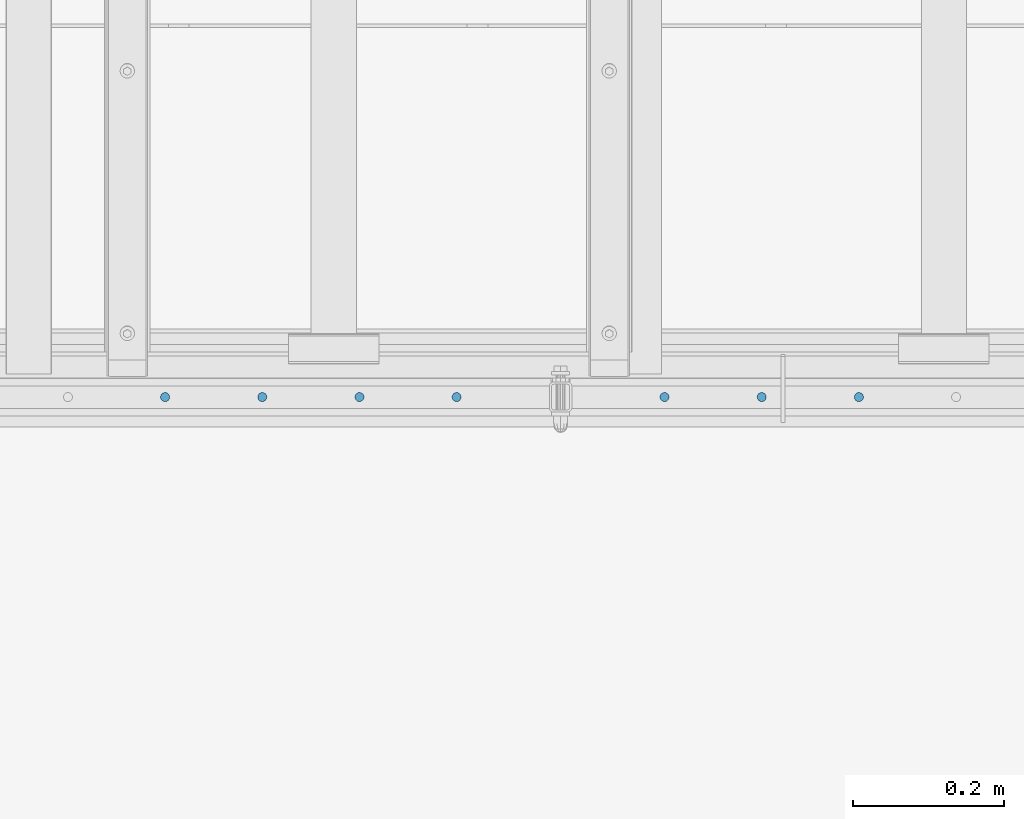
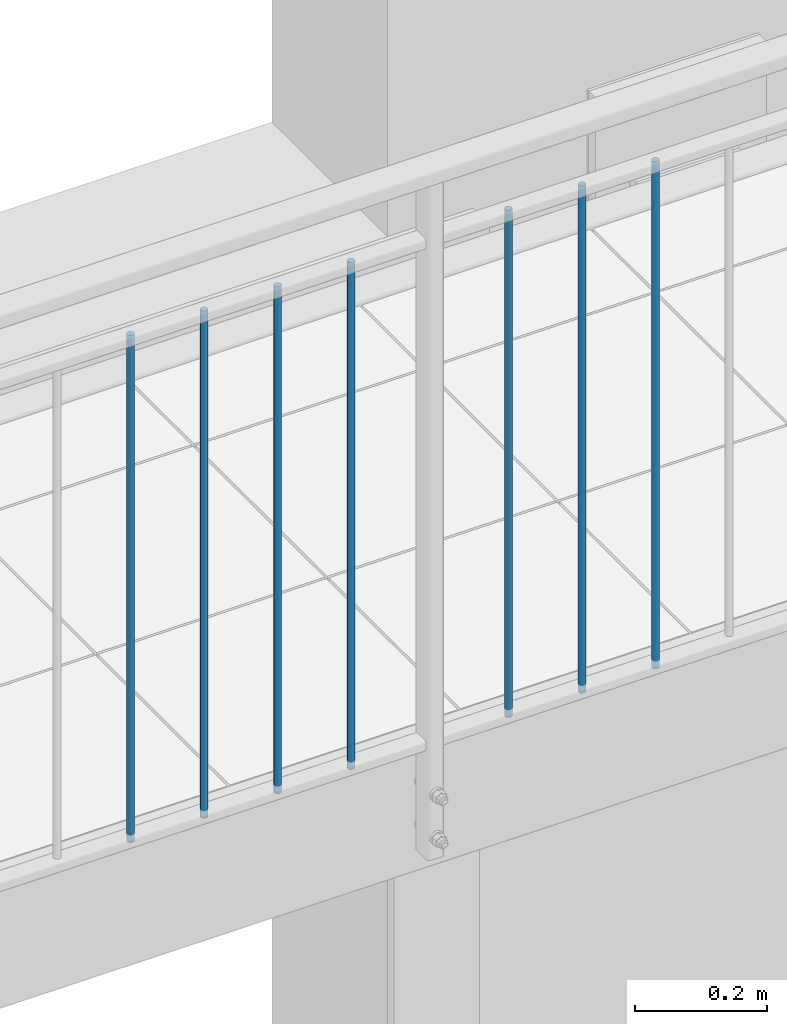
# One storey, part 25 of 162: 7 columns.
"""IFC2X3 building model written with IfcOpenShell, lengths in millimetres."""

import ifcopenshell
import ifcopenshell.guid

model = None  # the IFC model being written
_history = None  # IfcOwnerHistory: only IFC2X3 demands one
_inside = {}  # id of a spatial element -> (the spatial element, [elements in it])
_under = {}  # id of a project, library or spatial element -> (it, [spatial elements below it])
_declared = {}  # id of a project -> (the project, [libraries it declares])
_typed = {}  # id of a type object -> (the type object, [elements of that type])
_made_of = {}  # id of a material, layer set ... -> (it, [elements and type objects made of it])


def new_model(schema):
    """Start an empty IFC model of exactly this schema.

    Asked for "IFC4X3", IfcOpenShell would pick the latest addendum, in which some entities
    have other attributes; the version numbers below select the first issue.
    IFC2X3 requires an IfcOwnerHistory on every rooted entity: one is made here for all.
    """
    global model, _history
    if schema == "IFC4X3":
        model = ifcopenshell.file(schema_version=(4, 3, 0, 0))
    else:
        model = ifcopenshell.file(schema=schema)
    _inside.clear()
    _under.clear()
    _declared.clear()
    _typed.clear()
    _made_of.clear()
    _history = None
    if model.schema == "IFC2X3":
        org = make("IfcOrganization", Name="unknown")
        user = make(
            "IfcPersonAndOrganization",
            ThePerson=make("IfcPerson", FamilyName="unknown"),
            TheOrganization=org,
        )
        app = make(
            "IfcApplication",
            ApplicationDeveloper=org,
            Version="unknown",
            ApplicationFullName="unknown",
            ApplicationIdentifier="unknown",
        )
        _history = make(
            "IfcOwnerHistory",
            OwningUser=user,
            OwningApplication=app,
            ChangeAction="ADDED",
            CreationDate=0,
        )
    return model


def make(cls, **values):
    """One entity of the class cls with the attributes given. An attribute that is None is left unset."""
    return model.create_entity(
        cls, **{name: value for name, value in values.items() if value is not None}
    )


def entity(cls, *values):
    """Any entity or typed value of the class cls, its attributes in the order of the schema. None: left unset."""
    e = model.create_entity(cls)
    for i, value in enumerate(values):
        if value is not None:
            e[i] = value
    return e


def rooted(cls, **values):
    """An entity with a GlobalId (a new one), such as an element, a storey or a relation."""
    return make(cls, GlobalId=ifcopenshell.guid.new(), OwnerHistory=_history, **values)


def si_unit(unit_type, name, prefix=None):
    """IfcSIUnit, for example si_unit("LENGTHUNIT", "METRE", prefix="MILLI")."""
    return make("IfcSIUnit", UnitType=unit_type, Prefix=prefix, Name=name)


def converted_unit(unit_type, name, factor, base, dimensions=None, offset=None):
    """IfcConversionBasedUnit, such as the inch: factor (a typed value) times the base unit."""
    return make(
        "IfcConversionBasedUnit"
        if offset is None
        else "IfcConversionBasedUnitWithOffset",
        ConversionOffset=offset,
        Dimensions=None
        if dimensions is None
        else entity("IfcDimensionalExponents", *dimensions),
        UnitType=unit_type,
        Name=name,
        ConversionFactor=make(
            "IfcMeasureWithUnit", ValueComponent=factor, UnitComponent=base
        ),
    )


def assignment(units):
    """IfcUnitAssignment: the units of a project."""
    return None if units is None else make("IfcUnitAssignment", Units=units)


def point(xyz):
    """IfcCartesianPoint."""
    return None if xyz is None else make("IfcCartesianPoint", Coordinates=xyz)


def direction(xyz):
    """IfcDirection."""
    return None if xyz is None else make("IfcDirection", DirectionRatios=xyz)


def frame(location, z_axis=None, x_axis=None):
    """IfcAxis2Placement3D, a coordinate frame: its origin and axes. An axis left out is left unset."""
    return make(
        "IfcAxis2Placement3D",
        Location=point(location),
        Axis=direction(z_axis),
        RefDirection=direction(x_axis),
    )


def frame_2d(location, x_axis=None):
    """IfcAxis2Placement2D, a coordinate frame in the plane: its origin and x axis."""
    return make(
        "IfcAxis2Placement2D", Location=point(location), RefDirection=direction(x_axis)
    )


def origin():
    """The frame at (0, 0, 0) with its axes left unset."""
    return frame((0.0, 0.0, 0.0))


def origin_with_axes():
    """The frame at (0, 0, 0) with the z axis (0, 0, 1) and the x axis (1, 0, 0) written out."""
    return frame((0.0, 0.0, 0.0), z_axis=(0.0, 0.0, 1.0), x_axis=(1.0, 0.0, 0.0))


def origin_2d():
    """The frame at (0, 0) in the plane with its x axis left unset."""
    return frame_2d((0.0, 0.0))


def place(relative_to, where):
    """IfcLocalPlacement: puts the frame where relative to a parent placement (None: the world)."""
    return make(
        "IfcLocalPlacement", PlacementRelTo=relative_to, RelativePlacement=where
    )


def context(
    kind, dimensions, precision=None, world=None, true_north=None, identifier=None
):
    """IfcGeometricRepresentationContext, for example the 3D "Model" context."""
    return make(
        "IfcGeometricRepresentationContext",
        ContextIdentifier=identifier,
        ContextType=kind,
        CoordinateSpaceDimension=dimensions,
        Precision=precision,
        WorldCoordinateSystem=world,
        TrueNorth=true_north,
    )


def project(units=None, contexts=None):
    """IfcProject with its units and contexts."""
    return rooted(
        "IfcProject",
        Name="project",
        RepresentationContexts=contexts,
        UnitsInContext=assignment(units),
    )


def spatial(cls, under=None, at=None, **own):
    """A site, building, storey or space (cls), placed at a placement, below another one or the project."""
    s = rooted(cls, ObjectPlacement=at, **own)
    if under is not None:
        _under.setdefault(under.id(), (under, []))[1].append(s)
    return s


def profile(cls, at=None, kind="AREA", **sizes):
    """A parametric profile (cls). Its sizes go by their IFC names, for example OverallWidth=200.0."""
    return make(cls, ProfileType=kind, Position=at, **sizes)


def circle(**sizes):
    """IfcCircleProfileDef."""
    return profile("IfcCircleProfileDef", **sizes)


def extrude(swept, where, along, depth):
    """IfcExtrudedAreaSolid: the profile swept, set in the frame where, extruded along a direction by depth."""
    return make(
        "IfcExtrudedAreaSolid",
        SweptArea=swept,
        Position=where,
        ExtrudedDirection=direction(along),
        Depth=depth,
    )


def shape(context_of_items, identifier, shape_type, items):
    """IfcShapeRepresentation: the items that make up one representation, for example the "Body"."""
    return make(
        "IfcShapeRepresentation",
        ContextOfItems=context_of_items,
        RepresentationIdentifier=identifier,
        RepresentationType=shape_type,
        Items=items,
    )


def material(Name=None, Category=None):
    """IfcMaterial."""
    return make("IfcMaterial", Name=Name, Category=Category)


def made_of(thing, what):
    """Note that an element or type object is made of a material, layer set ...; save() writes the relation."""
    if what is not None:
        _made_of.setdefault(what.id(), (what, []))[1].append(thing)
    return thing


def element(
    cls,
    number,
    at=None,
    inside=None,
    cuts=None,
    type_object=None,
    material=None,
    context=None,
    identifier="Body",
    shape_type=None,
    held_by="IfcProductDefinitionShape",
    body=None,
    shapes=None,
    **own,
):
    """One element of the class cls, such as IfcWall. Its Tag is "e" and its number.

    at: its placement. inside: the storey or other place that contains it. cuts: it is an
    opening in that element (IfcRelVoidsElement). A single representation is given by context,
    identifier, shape_type and body (its items); several are given by shapes. held_by: the class
    of the entity that holds the representations. save() writes the other relations.
    """
    e = rooted(cls, Tag="e%d" % number, ObjectPlacement=at, **own)
    if body is not None:
        shapes = [shape(context, identifier, shape_type, body)]
    if shapes is not None:
        e.Representation = make(held_by, Representations=shapes)
    if inside is not None:
        _inside.setdefault(inside.id(), (inside, []))[1].append(e)
    if cuts is not None:
        rooted(
            "IfcRelVoidsElement", RelatingBuildingElement=cuts, RelatedOpeningElement=e
        )
    if type_object is not None:
        _typed.setdefault(type_object.id(), (type_object, []))[1].append(e)
    return made_of(e, material)


def aggregate(whole, parts):
    """IfcRelAggregates: a whole, such as a stair, and the parts it consists of."""
    return rooted("IfcRelAggregates", RelatingObject=whole, RelatedObjects=parts)


def save(model, path):
    """Write the relations noted so far, then the file.

    IfcRelAggregates (storeys below a building ...), IfcRelContainedInSpatialStructure (elements
    in a storey), IfcRelDefinesByType, IfcRelAssociatesMaterial and IfcRelDeclares: one each for
    every whole, place, type object, material and project.
    """
    for whole, parts in _under.values():
        aggregate(whole, parts)
    for where, things in _inside.values():
        rooted(
            "IfcRelContainedInSpatialStructure",
            RelatedElements=things,
            RelatingStructure=where,
        )
    for kind, things in _typed.values():
        rooted("IfcRelDefinesByType", RelatedObjects=things, RelatingType=kind)
    for what, things in _made_of.values():
        rooted("IfcRelAssociatesMaterial", RelatedObjects=things, RelatingMaterial=what)
    for by, libraries in _declared.values():
        rooted("IfcRelDeclares", RelatingContext=by, RelatedDefinitions=libraries)
    model.write(path)


model = new_model("IFC2X3")

# Units and contexts
model_context = context("Model", 3, precision=1e-09, world=origin_with_axes())
ifc_project = project(units=[si_unit("LENGTHUNIT", "METRE", prefix="MILLI"), si_unit("AREAUNIT", "SQUARE_METRE"), si_unit("VOLUMEUNIT", "CUBIC_METRE"), converted_unit("PLANEANGLEUNIT", "DEGREE", entity("IfcPlaneAngleMeasure", 0.01745329), si_unit("PLANEANGLEUNIT", "RADIAN"), dimensions=[0, 0, 0, 0, 0, 0, 0])], contexts=[model_context])

# Site, building, storey
site_placement = place(None, origin_with_axes())
site = spatial("IfcSite", under=ifc_project, at=site_placement, Name="Hermannstra?e 1a, 60318 Frankfurt", CompositionType="ELEMENT")
building_placement = place(site_placement, origin_with_axes())
building = spatial("IfcBuilding", under=site, at=building_placement, Name="Struktur 1", CompositionType="ELEMENT")
storey_placement = place(building_placement, origin_with_axes())
storey = spatial("IfcBuildingStorey", under=building, at=storey_placement, Name="Default Storey", CompositionType="ELEMENT", Elevation=0.0)

# Columns
ifc_material = material(Name="S235JR")
for number, where, z_axis, x_axis in (
    (1, (3918.880793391, 1515.609373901, 15261.999), (0.0, 0.0, -1.0), (1.0, 0.0, 0.0)),
    (2, (4047.737936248, 1515.609373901, 15261.999), (0.0, 0.0, -1.0), (1.0, 0.0, 0.0)),
    (3, (4176.595079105, 1515.609373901, 15261.999), (0.0, 0.0, -1.0), (1.0, 0.0, 0.0)),
    (4, (4305.452221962, 1515.609373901, 15261.999), (0.0, 0.0, -1.0), (1.0, 0.0, 0.0)),
    (5, (4581.166507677, 1515.609373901, 15261.999), (0.0, 0.0, -1.0), (1.0, 0.0, 0.0)),
    (6, (4710.023650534, 1515.609373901, 15261.999), (0.0, 0.0, -1.0), (1.0, 0.0, 0.0)),
    (7, (4838.880793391, 1515.609373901, 15261.999), (0.0, 0.0, -1.0), (1.0, 0.0, 0.0)),
):
    element("IfcColumn", number, at=place(None, frame(where, z_axis=z_axis, x_axis=x_axis)), inside=storey, material=ifc_material, Name="-", ObjectType="-", context=model_context, shape_type="SweptSolid", body=[
        extrude(circle(Radius=6.0, at=origin_2d()), origin(), (0.0, 0.0, -1.0), 940.0),
    ])

save(model, "model.ifc")
